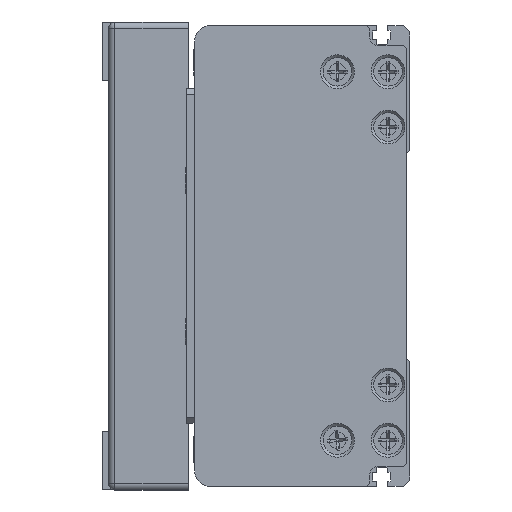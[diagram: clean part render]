
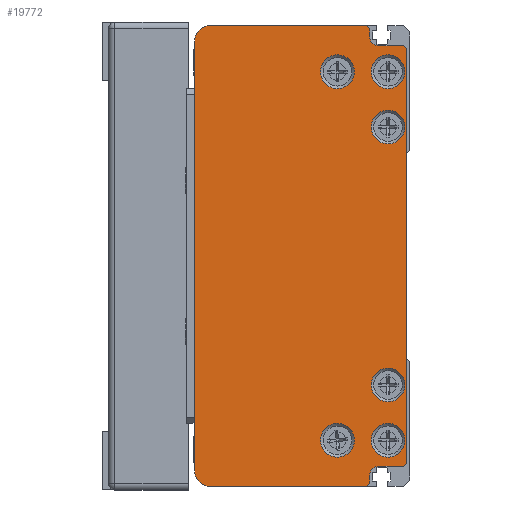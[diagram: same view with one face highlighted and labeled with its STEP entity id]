
A CAD part, left-side view. The second image highlights one B-rep face of the part: STEP entity #19772.
In plain terms, the highlighted planar face has unit normal (-1, 0, 0) as drawn and (0, 0, -1) by its records, which use the part's own axes.
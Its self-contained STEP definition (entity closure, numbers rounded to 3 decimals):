
#934=LINE('',#28562,#2599);
#935=LINE('',#28566,#2600);
#936=LINE('',#28568,#2601);
#937=LINE('',#28570,#2602);
#938=LINE('',#28574,#2603);
#939=LINE('',#28576,#2604);
#940=LINE('',#28578,#2605);
#941=LINE('',#28580,#2606);
#942=LINE('',#28582,#2607);
#943=LINE('',#28586,#2608);
#944=LINE('',#28588,#2609);
#945=LINE('',#28590,#2610);
#2599=VECTOR('',#23187,140.);
#2600=VECTOR('',#23190,51.);
#2601=VECTOR('',#23191,1.414);
#2602=VECTOR('',#23192,2.5);
#2603=VECTOR('',#23195,8.);
#2604=VECTOR('',#23196,1.414);
#2605=VECTOR('',#23197,135.);
#2606=VECTOR('',#23198,1.414);
#2607=VECTOR('',#23199,8.);
#2608=VECTOR('',#23202,2.5);
#2609=VECTOR('',#23203,1.414);
#2610=VECTOR('',#23204,51.);
#4217=PLANE('',#21122);
#4842=FACE_BOUND('',#6656,.T.);
#4843=FACE_BOUND('',#6657,.T.);
#4844=FACE_BOUND('',#6658,.T.);
#4845=FACE_BOUND('',#6659,.T.);
#4846=FACE_BOUND('',#6660,.T.);
#4847=FACE_BOUND('',#6661,.T.);
#5385=FACE_OUTER_BOUND('',#6655,.T.);
#6655=EDGE_LOOP('',(#13875,#13876,#13877,#13878,#13879,#13880,#13881,#13882,
#13883,#13884,#13885,#13886,#13887,#13888,#13889,#13890));
#6656=EDGE_LOOP('',(#13891));
#6657=EDGE_LOOP('',(#13892));
#6658=EDGE_LOOP('',(#13893));
#6659=EDGE_LOOP('',(#13894));
#6660=EDGE_LOOP('',(#13895));
#6661=EDGE_LOOP('',(#13896));
#8155=CIRCLE('',#21123,5.);
#8156=CIRCLE('',#21124,3.);
#8157=CIRCLE('',#21125,3.);
#8158=CIRCLE('',#21126,5.);
#8159=CIRCLE('',#21127,5.5);
#8160=CIRCLE('',#21128,5.5);
#8161=CIRCLE('',#21129,5.5);
#8162=CIRCLE('',#21130,5.5);
#8163=CIRCLE('',#21131,5.5);
#8164=CIRCLE('',#21132,5.5);
#8839=VERTEX_POINT('',#28560);
#8840=VERTEX_POINT('',#28561);
#8841=VERTEX_POINT('',#28563);
#8842=VERTEX_POINT('',#28565);
#8843=VERTEX_POINT('',#28567);
#8844=VERTEX_POINT('',#28569);
#8845=VERTEX_POINT('',#28571);
#8846=VERTEX_POINT('',#28573);
#8847=VERTEX_POINT('',#28575);
#8848=VERTEX_POINT('',#28577);
#8849=VERTEX_POINT('',#28579);
#8850=VERTEX_POINT('',#28581);
#8851=VERTEX_POINT('',#28583);
#8852=VERTEX_POINT('',#28585);
#8853=VERTEX_POINT('',#28587);
#8854=VERTEX_POINT('',#28589);
#8855=VERTEX_POINT('',#28592);
#8856=VERTEX_POINT('',#28594);
#8857=VERTEX_POINT('',#28596);
#8858=VERTEX_POINT('',#28598);
#8859=VERTEX_POINT('',#28600);
#8860=VERTEX_POINT('',#28602);
#10867=EDGE_CURVE('',#8839,#8840,#934,.T.);
#10868=EDGE_CURVE('',#8840,#8841,#8155,.T.);
#10869=EDGE_CURVE('',#8841,#8842,#935,.T.);
#10870=EDGE_CURVE('',#8842,#8843,#936,.T.);
#10871=EDGE_CURVE('',#8843,#8844,#937,.T.);
#10872=EDGE_CURVE('',#8844,#8845,#8156,.T.);
#10873=EDGE_CURVE('',#8845,#8846,#938,.T.);
#10874=EDGE_CURVE('',#8846,#8847,#939,.T.);
#10875=EDGE_CURVE('',#8847,#8848,#940,.T.);
#10876=EDGE_CURVE('',#8848,#8849,#941,.T.);
#10877=EDGE_CURVE('',#8849,#8850,#942,.T.);
#10878=EDGE_CURVE('',#8850,#8851,#8157,.T.);
#10879=EDGE_CURVE('',#8851,#8852,#943,.T.);
#10880=EDGE_CURVE('',#8852,#8853,#944,.T.);
#10881=EDGE_CURVE('',#8853,#8854,#945,.T.);
#10882=EDGE_CURVE('',#8854,#8839,#8158,.T.);
#10883=EDGE_CURVE('',#8855,#8855,#8159,.T.);
#10884=EDGE_CURVE('',#8856,#8856,#8160,.T.);
#10885=EDGE_CURVE('',#8857,#8857,#8161,.T.);
#10886=EDGE_CURVE('',#8858,#8858,#8162,.T.);
#10887=EDGE_CURVE('',#8859,#8859,#8163,.T.);
#10888=EDGE_CURVE('',#8860,#8860,#8164,.T.);
#13875=ORIENTED_EDGE('',*,*,#10867,.T.);
#13876=ORIENTED_EDGE('',*,*,#10868,.T.);
#13877=ORIENTED_EDGE('',*,*,#10869,.T.);
#13878=ORIENTED_EDGE('',*,*,#10870,.T.);
#13879=ORIENTED_EDGE('',*,*,#10871,.T.);
#13880=ORIENTED_EDGE('',*,*,#10872,.T.);
#13881=ORIENTED_EDGE('',*,*,#10873,.T.);
#13882=ORIENTED_EDGE('',*,*,#10874,.T.);
#13883=ORIENTED_EDGE('',*,*,#10875,.T.);
#13884=ORIENTED_EDGE('',*,*,#10876,.T.);
#13885=ORIENTED_EDGE('',*,*,#10877,.T.);
#13886=ORIENTED_EDGE('',*,*,#10878,.T.);
#13887=ORIENTED_EDGE('',*,*,#10879,.T.);
#13888=ORIENTED_EDGE('',*,*,#10880,.T.);
#13889=ORIENTED_EDGE('',*,*,#10881,.T.);
#13890=ORIENTED_EDGE('',*,*,#10882,.T.);
#13891=ORIENTED_EDGE('',*,*,#10883,.T.);
#13892=ORIENTED_EDGE('',*,*,#10884,.T.);
#13893=ORIENTED_EDGE('',*,*,#10885,.T.);
#13894=ORIENTED_EDGE('',*,*,#10886,.T.);
#13895=ORIENTED_EDGE('',*,*,#10887,.T.);
#13896=ORIENTED_EDGE('',*,*,#10888,.T.);
#19772=ADVANCED_FACE('',(#5385,#4842,#4843,#4844,#4845,#4846,#4847),#4217,
 .F.);
#21122=AXIS2_PLACEMENT_3D('',#28559,#23185,#23186);
#21123=AXIS2_PLACEMENT_3D('',#28564,#23188,#23189);
#21124=AXIS2_PLACEMENT_3D('',#28572,#23193,#23194);
#21125=AXIS2_PLACEMENT_3D('',#28584,#23200,#23201);
#21126=AXIS2_PLACEMENT_3D('',#28591,#23205,#23206);
#21127=AXIS2_PLACEMENT_3D('',#28593,#23207,#23208);
#21128=AXIS2_PLACEMENT_3D('',#28595,#23209,#23210);
#21129=AXIS2_PLACEMENT_3D('',#28597,#23211,#23212);
#21130=AXIS2_PLACEMENT_3D('',#28599,#23213,#23214);
#21131=AXIS2_PLACEMENT_3D('',#28601,#23215,#23216);
#21132=AXIS2_PLACEMENT_3D('',#28603,#23217,#23218);
#23185=DIRECTION('center_axis',(0.,0.,
1.));
#23186=DIRECTION('ref_axis',(1.,0.,0.));
#23187=DIRECTION('',(1.,0.,0.));
#23188=DIRECTION('center_axis',(0.,0.,
-1.));
#23189=DIRECTION('ref_axis',(-1.,0.,0.));
#23190=DIRECTION('',(0.,-1.,0.));
#23191=DIRECTION('',(-0.707,-0.707,0.));
#23192=DIRECTION('',(-1.,0.,0.));
#23193=DIRECTION('center_axis',(0.,0.,
1.));
#23194=DIRECTION('ref_axis',(0.,1.,0.));
#23195=DIRECTION('',(0.,-1.,0.));
#23196=DIRECTION('',(-0.707,-0.707,0.));
#23197=DIRECTION('',(-1.,0.,0.));
#23198=DIRECTION('',(-0.707,0.707,0.));
#23199=DIRECTION('',(0.,1.,0.));
#23200=DIRECTION('center_axis',(0.,0.,
1.));
#23201=DIRECTION('ref_axis',(1.,0.,0.));
#23202=DIRECTION('',(-1.,0.,0.));
#23203=DIRECTION('',(-0.707,0.707,0.));
#23204=DIRECTION('',(0.,1.,0.));
#23205=DIRECTION('center_axis',(0.,0.,
-1.));
#23206=DIRECTION('ref_axis',(0.,-1.,0.));
#23207=DIRECTION('center_axis',(0.,0.,
1.));
#23208=DIRECTION('ref_axis',(-1.,0.,0.));
#23209=DIRECTION('center_axis',(0.,0.,
1.));
#23210=DIRECTION('ref_axis',(-1.,0.,0.));
#23211=DIRECTION('center_axis',(0.,0.,
1.));
#23212=DIRECTION('ref_axis',(-1.,0.,0.));
#23213=DIRECTION('center_axis',(0.,0.,
1.));
#23214=DIRECTION('ref_axis',(-1.,0.,0.));
#23215=DIRECTION('center_axis',(0.,0.,
1.));
#23216=DIRECTION('ref_axis',(-1.,0.,0.));
#23217=DIRECTION('center_axis',(0.,0.,
1.));
#23218=DIRECTION('ref_axis',(-1.,0.,0.));
#28559=CARTESIAN_POINT('Origin',(0.25,38.047,-719.));
#28560=CARTESIAN_POINT('',(-69.75,72.25,-719.));
#28561=CARTESIAN_POINT('',(70.25,72.25,-719.));
#28562=CARTESIAN_POINT('',(-69.75,72.25,-719.));
#28563=CARTESIAN_POINT('',(75.25,67.25,-719.));
#28564=CARTESIAN_POINT('Origin',(70.25,67.25,-719.));
#28565=CARTESIAN_POINT('',(75.25,16.25,-719.));
#28566=CARTESIAN_POINT('',(75.25,67.25,-719.));
#28567=CARTESIAN_POINT('',(74.25,15.25,-719.));
#28568=CARTESIAN_POINT('',(75.25,16.25,-719.));
#28569=CARTESIAN_POINT('',(71.75,15.25,-719.));
#28570=CARTESIAN_POINT('',(74.25,15.25,-719.));
#28571=CARTESIAN_POINT('',(68.75,12.25,-719.));
#28572=CARTESIAN_POINT('Origin',(71.75,12.25,-719.));
#28573=CARTESIAN_POINT('',(68.75,4.25,-719.));
#28574=CARTESIAN_POINT('',(68.75,12.25,-719.));
#28575=CARTESIAN_POINT('',(67.75,3.25,-719.));
#28576=CARTESIAN_POINT('',(68.75,4.25,-719.));
#28577=CARTESIAN_POINT('',(-67.25,3.25,-719.));
#28578=CARTESIAN_POINT('',(67.75,3.25,-719.));
#28579=CARTESIAN_POINT('',(-68.25,4.25,-719.));
#28580=CARTESIAN_POINT('',(-67.25,3.25,-719.));
#28581=CARTESIAN_POINT('',(-68.25,12.25,-719.));
#28582=CARTESIAN_POINT('',(-68.25,4.25,-719.));
#28583=CARTESIAN_POINT('',(-71.25,15.25,-719.));
#28584=CARTESIAN_POINT('Origin',(-71.25,12.25,-719.));
#28585=CARTESIAN_POINT('',(-73.75,15.25,-719.));
#28586=CARTESIAN_POINT('',(-71.25,15.25,-719.));
#28587=CARTESIAN_POINT('',(-74.75,16.25,-719.));
#28588=CARTESIAN_POINT('',(-73.75,15.25,-719.));
#28589=CARTESIAN_POINT('',(-74.75,67.25,-719.));
#28590=CARTESIAN_POINT('',(-74.75,16.25,-719.));
#28591=CARTESIAN_POINT('Origin',(-69.75,67.25,-719.));
#28592=CARTESIAN_POINT('',(-47.25,9.25,-719.));
#28593=CARTESIAN_POINT('Origin',(-41.75,9.25,-719.));
#28594=CARTESIAN_POINT('',(36.75,9.25,-719.));
#28595=CARTESIAN_POINT('Origin',(42.25,9.25,-719.));
#28596=CARTESIAN_POINT('',(-65.25,25.75,-719.));
#28597=CARTESIAN_POINT('Origin',(-59.75,25.75,-719.));
#28598=CARTESIAN_POINT('',(54.75,25.75,-719.));
#28599=CARTESIAN_POINT('Origin',(60.25,25.75,-719.));
#28600=CARTESIAN_POINT('',(-65.25,9.25,-719.));
#28601=CARTESIAN_POINT('Origin',(-59.75,9.25,-719.));
#28602=CARTESIAN_POINT('',(54.75,9.25,-719.));
#28603=CARTESIAN_POINT('Origin',(60.25,9.25,-719.));
